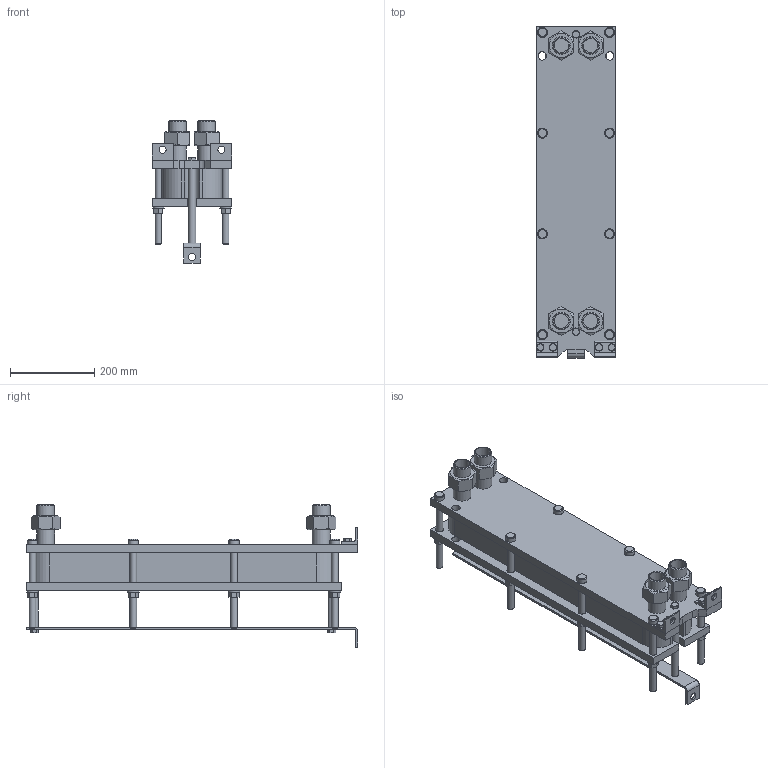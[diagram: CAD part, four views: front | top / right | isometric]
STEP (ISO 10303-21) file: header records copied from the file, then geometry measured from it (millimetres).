
FILE_DESCRIPTION(/* description */ (''),/* implementation_level */ '2;1');
FILE_NAME(/* name */ 'C:\Users\zhuro\Desktop\ENCO\TO\ЭН-008\ЭН-0,5-008-23-1.stp',/* time_stamp */ '2022-06-06T10:46:42+03:00',/* author */ ('zhuro'),/* organization */ (''),/* preprocessor_version */ 'ST-DEVELOPER v18.1',/* originating_system */ 'Autodesk Inventor 2022',/* authorisation */ '');
FILE_SCHEMA (('AUTOMOTIVE_DESIGN { 1 0 10303 214 3 1 1 }'));
Length unit declared in the file: millimetre
Products named in the file (1): ЭН-0,5-008-23-1
Bounding box: 190 x 790 x 339.4 mm (x, y, z)
Volume: 13914484.2 mm3; surface area: 1370194.8 mm2
Topology: 40 solids, 40 shells, 428 faces, 924 edges, 606 vertices
Faces by surface type: plane 273, cylinder 109, cone 40, torus 6
Full cylindrical faces by diameter (mm): 12 x6, 14 x2, 16 x20, 17 x8, 18 x19, 20 x5, 24 x8, 28 x8, 34.3 x8, 42.3 x8
Entity records: 15843 total; most frequent: CARTESIAN_POINT 5991, DIRECTION 1984, ORIENTED_EDGE 1848, EDGE_CURVE 924, AXIS2_PLACEMENT_3D 715, VERTEX_POINT 606, LINE 554, VECTOR 554
